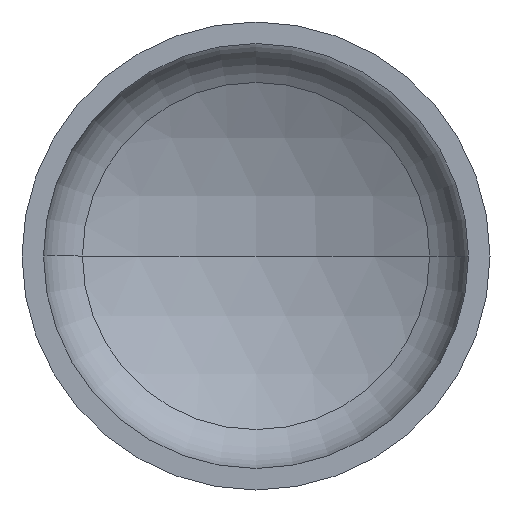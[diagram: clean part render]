
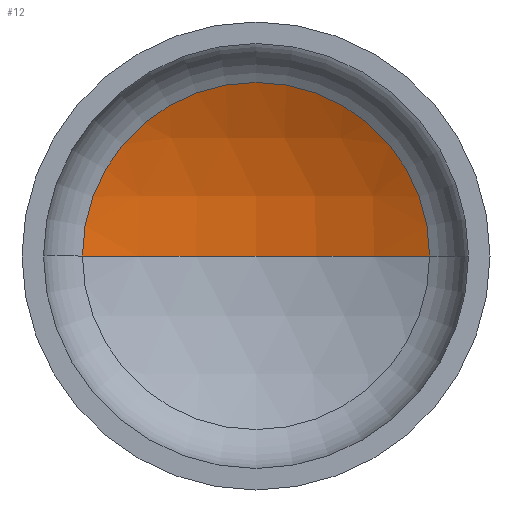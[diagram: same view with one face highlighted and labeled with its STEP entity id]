
A CAD part, front view. The second image highlights one B-rep face of the part: STEP entity #12.
In plain terms, the highlighted spherical face has radius 800 mm.
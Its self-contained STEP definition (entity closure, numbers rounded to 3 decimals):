
#8 = ORIENTED_EDGE ( 'NONE', *, *, #245, .F. ) ;
#12 = ADVANCED_FACE ( 'NONE', ( #223 ), #101, .F. ) ;
#16 = CARTESIAN_POINT ( 'NONE',  ( 0., 277.34, 0. ) ) ;
#17 = EDGE_LOOP ( 'NONE', ( #8, #233, #88 ) ) ;
#19 = VERTEX_POINT ( 'NONE', #261 ) ;
#38 = VERTEX_POINT ( 'NONE', #240 ) ;
#59 = DIRECTION ( 'NONE',  ( 0., -1., 0. ) ) ;
#67 = VERTEX_POINT ( 'NONE', #230 ) ;
#88 = ORIENTED_EDGE ( 'NONE', *, *, #237, .T. ) ;
#101 = SPHERICAL_SURFACE ( 'NONE', #189, 800. ) ;
#128 = AXIS2_PLACEMENT_3D ( 'NONE', #203, #201, #202 ) ;
#137 = AXIS2_PLACEMENT_3D ( 'NONE', #181, #363, #171 ) ;
#140 = AXIS2_PLACEMENT_3D ( 'NONE', #16, #59, #386 ) ;
#171 = DIRECTION ( 'NONE',  ( -1., 0., 0. ) ) ;
#181 = CARTESIAN_POINT ( 'NONE',  ( 0., -431.51, 0. ) ) ;
#183 = CIRCLE ( 'NONE', #128, 800. ) ;
#188 = CIRCLE ( 'NONE', #140, 370.853 ) ;
#189 = AXIS2_PLACEMENT_3D ( 'NONE', #288, #352, #284 ) ;
#201 = DIRECTION ( 'NONE',  ( 0., 0., 1. ) ) ;
#202 = DIRECTION ( 'NONE',  ( 1., 0., 0. ) ) ;
#203 = CARTESIAN_POINT ( 'NONE',  ( 0., -431.51, 0. ) ) ;
#223 = FACE_OUTER_BOUND ( 'NONE', #17, .T. ) ;
#230 = CARTESIAN_POINT ( 'NONE',  ( 0., 368.49, 0. ) ) ;
#233 = ORIENTED_EDGE ( 'NONE', *, *, #242, .T. ) ;
#237 = EDGE_CURVE ( 'NONE', #19, #38, #188, .T. ) ;
#240 = CARTESIAN_POINT ( 'NONE',  ( -370.853, 277.34, 0. ) ) ;
#242 = EDGE_CURVE ( 'NONE', #67, #19, #267, .T. ) ;
#245 = EDGE_CURVE ( 'NONE', #67, #38, #183, .T. ) ;
#261 = CARTESIAN_POINT ( 'NONE',  ( 370.853, 277.34, 0. ) ) ;
#267 = CIRCLE ( 'NONE', #137, 800. ) ;
#284 = DIRECTION ( 'NONE',  ( -1., 0., 0. ) ) ;
#288 = CARTESIAN_POINT ( 'NONE',  ( 0., -431.51, 0. ) ) ;
#352 = DIRECTION ( 'NONE',  ( 0., 0., -1. ) ) ;
#363 = DIRECTION ( 'NONE',  ( 0., 0., -1. ) ) ;
#386 = DIRECTION ( 'NONE',  ( 1., 0., 0. ) ) ;
